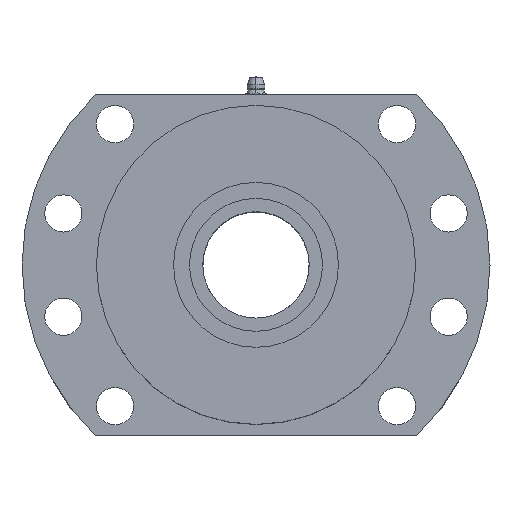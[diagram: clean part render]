
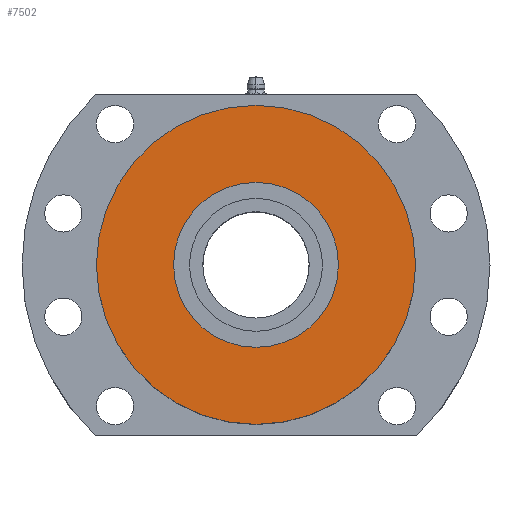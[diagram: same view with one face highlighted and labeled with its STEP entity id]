
A CAD part, top view. The second image highlights one B-rep face of the part: STEP entity #7502.
In plain terms, the highlighted planar face has unit normal (0, 0, 1).
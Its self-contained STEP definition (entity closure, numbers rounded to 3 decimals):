
#51 = DIRECTION ( 'NONE',  ( 0., 0., 1. ) ) ;
#53 = EDGE_CURVE ( 'NONE', #4259, #12454, #9603, .T. ) ;
#327 = DIRECTION ( 'NONE',  ( 1., 0., 0. ) ) ;
#340 = ORIENTED_EDGE ( 'NONE', *, *, #10581, .F. ) ;
#619 = CARTESIAN_POINT ( 'NONE',  ( -60., 0., 61. ) ) ;
#870 = FACE_BOUND ( 'NONE', #10216, .T. ) ;
#898 = CARTESIAN_POINT ( 'NONE',  ( 60., 0., 61. ) ) ;
#1148 = DIRECTION ( 'NONE',  ( 1., 0., 0. ) ) ;
#1498 = CARTESIAN_POINT ( 'NONE',  ( -31., 0., 61. ) ) ;
#2040 = ORIENTED_EDGE ( 'NONE', *, *, #5283, .F. ) ;
#2544 = DIRECTION ( 'NONE',  ( 0., 0., 1. ) ) ;
#2675 = AXIS2_PLACEMENT_3D ( 'NONE', #13588, #2544, #327 ) ;
#3141 = CARTESIAN_POINT ( 'NONE',  ( 0., 0., 61. ) ) ;
#3336 = CARTESIAN_POINT ( 'NONE',  ( 0., 0., 61. ) ) ;
#3429 = DIRECTION ( 'NONE',  ( 1., 0., 0. ) ) ;
#3639 = AXIS2_PLACEMENT_3D ( 'NONE', #3336, #11007, #1148 ) ;
#3840 = DIRECTION ( 'NONE',  ( 0., 0., 1. ) ) ;
#4254 = CIRCLE ( 'NONE', #2675, 31. ) ;
#4259 = VERTEX_POINT ( 'NONE', #619 ) ;
#4310 = DIRECTION ( 'NONE',  ( 1., 0., 0. ) ) ;
#4997 = AXIS2_PLACEMENT_3D ( 'NONE', #6663, #51, #3429 ) ;
#5283 = EDGE_CURVE ( 'NONE', #5776, #11060, #4254, .T. ) ;
#5440 = ORIENTED_EDGE ( 'NONE', *, *, #53, .T. ) ;
#5776 = VERTEX_POINT ( 'NONE', #1498 ) ;
#5830 = CARTESIAN_POINT ( 'NONE',  ( 31., 0., 61. ) ) ;
#6563 = ORIENTED_EDGE ( 'NONE', *, *, #13074, .T. ) ;
#6663 = CARTESIAN_POINT ( 'NONE',  ( 0., 0., 61. ) ) ;
#7065 = DIRECTION ( 'NONE',  ( 1., 0., 0. ) ) ;
#7109 = PLANE ( 'NONE',  #13921 ) ;
#7502 = ADVANCED_FACE ( 'NONE', ( #870, #10800 ), #7109, .T. ) ;
#8689 = DIRECTION ( 'NONE',  ( 0., 0., 1. ) ) ;
#9603 = CIRCLE ( 'NONE', #3639, 60. ) ;
#9856 = CIRCLE ( 'NONE', #11285, 31. ) ;
#10216 = EDGE_LOOP ( 'NONE', ( #340, #2040 ) ) ;
#10581 = EDGE_CURVE ( 'NONE', #11060, #5776, #9856, .T. ) ;
#10800 = FACE_OUTER_BOUND ( 'NONE', #12668, .T. ) ;
#11007 = DIRECTION ( 'NONE',  ( 0., 0., 1. ) ) ;
#11060 = VERTEX_POINT ( 'NONE', #5830 ) ;
#11285 = AXIS2_PLACEMENT_3D ( 'NONE', #3141, #8689, #4310 ) ;
#11662 = CIRCLE ( 'NONE', #4997, 60. ) ;
#12454 = VERTEX_POINT ( 'NONE', #898 ) ;
#12668 = EDGE_LOOP ( 'NONE', ( #5440, #6563 ) ) ;
#13074 = EDGE_CURVE ( 'NONE', #12454, #4259, #11662, .T. ) ;
#13588 = CARTESIAN_POINT ( 'NONE',  ( 0., 0., 61. ) ) ;
#13688 = CARTESIAN_POINT ( 'NONE',  ( 0., 0., 61. ) ) ;
#13921 = AXIS2_PLACEMENT_3D ( 'NONE', #13688, #3840, #7065 ) ;
